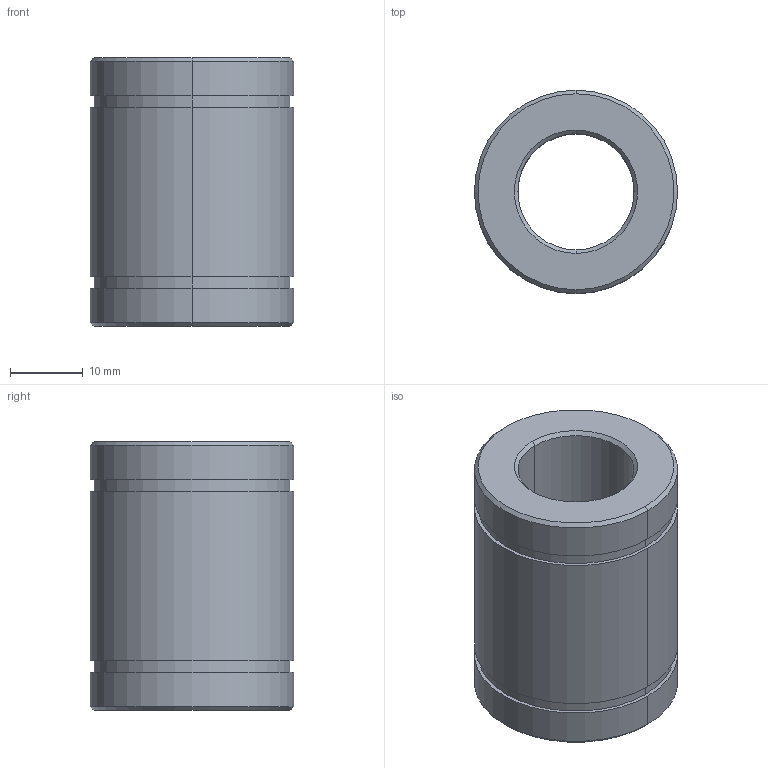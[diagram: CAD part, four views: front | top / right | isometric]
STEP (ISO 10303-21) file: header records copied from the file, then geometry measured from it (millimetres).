
FILE_DESCRIPTION (( 'STEP AP214' ), '1' );
FILE_NAME ('2.7009 Lineaarilaakeri LM16UU.STEP', '2024-06-17T07:37:41', ( '' ), ( '' ), 'SwSTEP 2.0', 'SolidWorks 2024', '' );
FILE_SCHEMA (( 'AUTOMOTIVE_DESIGN' ));
Length unit declared in the file: millimetre
Products named in the file (1): 2.7009 Lineaarilaakeri LM16UU
Bounding box: 28 x 28 x 37 mm (x, y, z)
Volume: 15177.2 mm3; surface area: 6040.1 mm2
Topology: 1 solids, 1 shells, 24 faces, 48 edges, 30 vertices
Faces by surface type: cylinder 12, cone 6, plane 6
Entity records: 661 total; most frequent: DIRECTION 128, CARTESIAN_POINT 103, ORIENTED_EDGE 96, AXIS2_PLACEMENT_3D 55, EDGE_CURVE 48, EDGE_LOOP 30, CIRCLE 30, VERTEX_POINT 30
